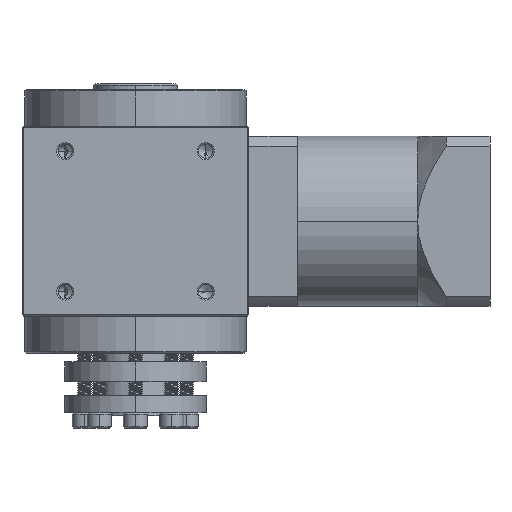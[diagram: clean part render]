
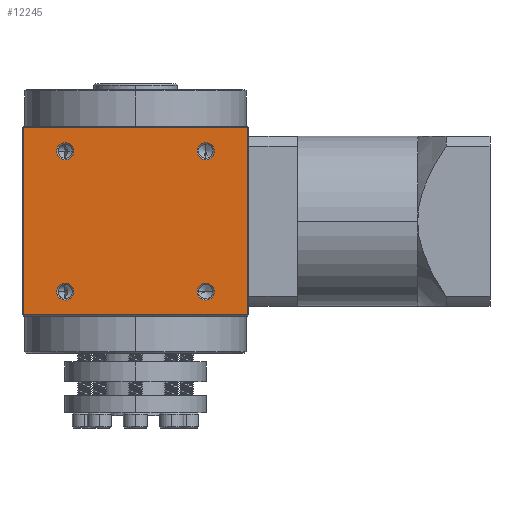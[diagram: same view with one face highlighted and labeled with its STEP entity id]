
A CAD part, left-side view. The second image highlights one B-rep face of the part: STEP entity #12245.
In plain terms, the highlighted planar face has unit normal (-1, 0, 0) as drawn and (0, 0, 1) by its records, which use the part's own axes.
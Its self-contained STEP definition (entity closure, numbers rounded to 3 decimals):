
#12 = CARTESIAN_POINT ( 'NONE',  ( 24.75, 24.75, 40. ) ) ;
#27 = EDGE_CURVE ( 'NONE', #16678, #1741, #3252, .T. ) ;
#260 = CARTESIAN_POINT ( 'NONE',  ( -27.75, -24.75, 40. ) ) ;
#284 = DIRECTION ( 'NONE',  ( 0., 0., -1. ) ) ;
#631 = VERTEX_POINT ( 'NONE', #2585 ) ;
#847 = DIRECTION ( 'NONE',  ( 1., 0., 0. ) ) ;
#902 = CARTESIAN_POINT ( 'NONE',  ( -24.75, 24.75, 40. ) ) ;
#1267 = ORIENTED_EDGE ( 'NONE', *, *, #9456, .F. ) ;
#1360 = LINE ( 'NONE', #4268, #4456 ) ;
#1741 = VERTEX_POINT ( 'NONE', #8573 ) ;
#2347 = ORIENTED_EDGE ( 'NONE', *, *, #2686, .F. ) ;
#2378 = EDGE_CURVE ( 'NONE', #10351, #16126, #10017, .T. ) ;
#2585 = CARTESIAN_POINT ( 'NONE',  ( 33., -39.5, 40. ) ) ;
#2686 = EDGE_CURVE ( 'NONE', #7980, #11738, #13283, .T. ) ;
#2705 = AXIS2_PLACEMENT_3D ( 'NONE', #12358, #4388, #13641 ) ;
#2761 = ORIENTED_EDGE ( 'NONE', *, *, #6364, .F. ) ;
#2918 = EDGE_LOOP ( 'NONE', ( #3359, #8752, #12225, #16161 ) ) ;
#3072 = EDGE_LOOP ( 'NONE', ( #2347, #2761 ) ) ;
#3214 = EDGE_LOOP ( 'NONE', ( #1267, #10983 ) ) ;
#3229 = LINE ( 'NONE', #13004, #13369 ) ;
#3242 = CARTESIAN_POINT ( 'NONE',  ( 21.75, -24.75, 40. ) ) ;
#3252 = CIRCLE ( 'NONE', #6316, 3. ) ;
#3272 = EDGE_LOOP ( 'NONE', ( #14080, #15479 ) ) ;
#3359 = ORIENTED_EDGE ( 'NONE', *, *, #13411, .T. ) ;
#3437 = EDGE_LOOP ( 'NONE', ( #11802, #6178 ) ) ;
#3494 = DIRECTION ( 'NONE',  ( 0., 0., 1. ) ) ;
#3701 = CARTESIAN_POINT ( 'NONE',  ( -33., 39.5, 40. ) ) ;
#3879 = AXIS2_PLACEMENT_3D ( 'NONE', #9482, #9437, #9381 ) ;
#4096 = FACE_BOUND ( 'NONE', #3072, .T. ) ;
#4110 = PLANE ( 'NONE',  #13664 ) ;
#4214 = CIRCLE ( 'NONE', #5535, 3. ) ;
#4268 = CARTESIAN_POINT ( 'NONE',  ( 33., 40., 40. ) ) ;
#4281 = CIRCLE ( 'NONE', #2705, 3. ) ;
#4388 = DIRECTION ( 'NONE',  ( 0., 0., 1. ) ) ;
#4456 = VECTOR ( 'NONE', #13527, 1000. ) ;
#4488 = CARTESIAN_POINT ( 'NONE',  ( 33.5, -39.5, 40. ) ) ;
#4750 = DIRECTION ( 'NONE',  ( 0., 0., 1. ) ) ;
#5071 = DIRECTION ( 'NONE',  ( 0., 1., 0. ) ) ;
#5105 = CARTESIAN_POINT ( 'NONE',  ( 33.5, 39.5, 40. ) ) ;
#5424 = DIRECTION ( 'NONE',  ( 1., 0., 0. ) ) ;
#5462 = DIRECTION ( 'NONE',  ( 0., 0., 1. ) ) ;
#5487 = CARTESIAN_POINT ( 'NONE',  ( 24.75, -24.75, 40. ) ) ;
#5535 = AXIS2_PLACEMENT_3D ( 'NONE', #902, #15773, #847 ) ;
#6178 = ORIENTED_EDGE ( 'NONE', *, *, #12330, .F. ) ;
#6193 = AXIS2_PLACEMENT_3D ( 'NONE', #5487, #5462, #5424 ) ;
#6316 = AXIS2_PLACEMENT_3D ( 'NONE', #12, #16295, #13784 ) ;
#6318 = EDGE_CURVE ( 'NONE', #631, #16168, #7963, .T. ) ;
#6364 = EDGE_CURVE ( 'NONE', #11738, #7980, #9848, .T. ) ;
#6396 = DIRECTION ( 'NONE',  ( -1., 0., 0. ) ) ;
#6647 = EDGE_CURVE ( 'NONE', #16126, #10351, #4214, .T. ) ;
#6666 = CARTESIAN_POINT ( 'NONE',  ( -21.75, -24.75, 40. ) ) ;
#6795 = EDGE_CURVE ( 'NONE', #15896, #10207, #12076, .T. ) ;
#6812 = CARTESIAN_POINT ( 'NONE',  ( 27.75, -24.75, 40. ) ) ;
#7046 = LINE ( 'NONE', #5105, #10576 ) ;
#7067 = CARTESIAN_POINT ( 'NONE',  ( 33., 39.5, 40. ) ) ;
#7614 = FACE_BOUND ( 'NONE', #3214, .T. ) ;
#7963 = LINE ( 'NONE', #4488, #14542 ) ;
#7980 = VERTEX_POINT ( 'NONE', #6812 ) ;
#8005 = EDGE_CURVE ( 'NONE', #13689, #631, #1360, .T. ) ;
#8228 = CARTESIAN_POINT ( 'NONE',  ( 33.5, 40., 40. ) ) ;
#8362 = EDGE_CURVE ( 'NONE', #16168, #12654, #3229, .T. ) ;
#8573 = CARTESIAN_POINT ( 'NONE',  ( 27.75, 24.75, 40. ) ) ;
#8752 = ORIENTED_EDGE ( 'NONE', *, *, #8362, .F. ) ;
#9381 = DIRECTION ( 'NONE',  ( 1., 0., 0. ) ) ;
#9437 = DIRECTION ( 'NONE',  ( 0., 0., 1. ) ) ;
#9456 = EDGE_CURVE ( 'NONE', #1741, #16678, #10877, .T. ) ;
#9482 = CARTESIAN_POINT ( 'NONE',  ( 24.75, -24.75, 40. ) ) ;
#9575 = DIRECTION ( 'NONE',  ( -1., 0., 0. ) ) ;
#9671 = AXIS2_PLACEMENT_3D ( 'NONE', #12715, #4750, #13984 ) ;
#9848 = CIRCLE ( 'NONE', #6193, 3. ) ;
#10017 = CIRCLE ( 'NONE', #16342, 3. ) ;
#10207 = VERTEX_POINT ( 'NONE', #260 ) ;
#10351 = VERTEX_POINT ( 'NONE', #11166 ) ;
#10576 = VECTOR ( 'NONE', #15642, 1000. ) ;
#10877 = CIRCLE ( 'NONE', #14417, 3. ) ;
#10983 = ORIENTED_EDGE ( 'NONE', *, *, #27, .F. ) ;
#11159 = FACE_BOUND ( 'NONE', #3272, .T. ) ;
#11166 = CARTESIAN_POINT ( 'NONE',  ( -27.75, 24.75, 40. ) ) ;
#11436 = CARTESIAN_POINT ( 'NONE',  ( 24.75, 24.75, 40. ) ) ;
#11738 = VERTEX_POINT ( 'NONE', #3242 ) ;
#11802 = ORIENTED_EDGE ( 'NONE', *, *, #6795, .F. ) ;
#12076 = CIRCLE ( 'NONE', #9671, 3. ) ;
#12225 = ORIENTED_EDGE ( 'NONE', *, *, #6318, .F. ) ;
#12245 = ADVANCED_FACE ( 'NONE', ( #14606, #4096, #7614, #11159, #14192 ), #4110, .F. ) ;
#12330 = EDGE_CURVE ( 'NONE', #10207, #15896, #4281, .T. ) ;
#12358 = CARTESIAN_POINT ( 'NONE',  ( -24.75, -24.75, 40. ) ) ;
#12654 = VERTEX_POINT ( 'NONE', #3701 ) ;
#12715 = CARTESIAN_POINT ( 'NONE',  ( -24.75, -24.75, 40. ) ) ;
#12773 = DIRECTION ( 'NONE',  ( 1., 0., 0. ) ) ;
#13004 = CARTESIAN_POINT ( 'NONE',  ( -33., 40., 40. ) ) ;
#13283 = CIRCLE ( 'NONE', #3879, 3. ) ;
#13369 = VECTOR ( 'NONE', #5071, 1000. ) ;
#13411 = EDGE_CURVE ( 'NONE', #13689, #12654, #7046, .T. ) ;
#13501 = CARTESIAN_POINT ( 'NONE',  ( -24.75, 24.75, 40. ) ) ;
#13503 = DIRECTION ( 'NONE',  ( 0., 0., 1. ) ) ;
#13523 = DIRECTION ( 'NONE',  ( 1., 0., 0. ) ) ;
#13527 = DIRECTION ( 'NONE',  ( 0., -1., 0. ) ) ;
#13641 = DIRECTION ( 'NONE',  ( 1., 0., 0. ) ) ;
#13664 = AXIS2_PLACEMENT_3D ( 'NONE', #8228, #284, #9575 ) ;
#13689 = VERTEX_POINT ( 'NONE', #7067 ) ;
#13784 = DIRECTION ( 'NONE',  ( 1., 0., 0. ) ) ;
#13984 = DIRECTION ( 'NONE',  ( 1., 0., 0. ) ) ;
#14080 = ORIENTED_EDGE ( 'NONE', *, *, #6647, .F. ) ;
#14192 = FACE_OUTER_BOUND ( 'NONE', #2918, .T. ) ;
#14417 = AXIS2_PLACEMENT_3D ( 'NONE', #11436, #3494, #12773 ) ;
#14542 = VECTOR ( 'NONE', #6396, 1000. ) ;
#14606 = FACE_BOUND ( 'NONE', #3437, .T. ) ;
#15479 = ORIENTED_EDGE ( 'NONE', *, *, #2378, .F. ) ;
#15642 = DIRECTION ( 'NONE',  ( -1., 0., 0. ) ) ;
#15766 = CARTESIAN_POINT ( 'NONE',  ( -33., -39.5, 40. ) ) ;
#15773 = DIRECTION ( 'NONE',  ( 0., 0., 1. ) ) ;
#15896 = VERTEX_POINT ( 'NONE', #6666 ) ;
#16126 = VERTEX_POINT ( 'NONE', #16321 ) ;
#16161 = ORIENTED_EDGE ( 'NONE', *, *, #8005, .F. ) ;
#16168 = VERTEX_POINT ( 'NONE', #15766 ) ;
#16295 = DIRECTION ( 'NONE',  ( 0., 0., 1. ) ) ;
#16321 = CARTESIAN_POINT ( 'NONE',  ( -21.75, 24.75, 40. ) ) ;
#16342 = AXIS2_PLACEMENT_3D ( 'NONE', #13501, #13503, #13523 ) ;
#16650 = CARTESIAN_POINT ( 'NONE',  ( 21.75, 24.75, 40. ) ) ;
#16678 = VERTEX_POINT ( 'NONE', #16650 ) ;
